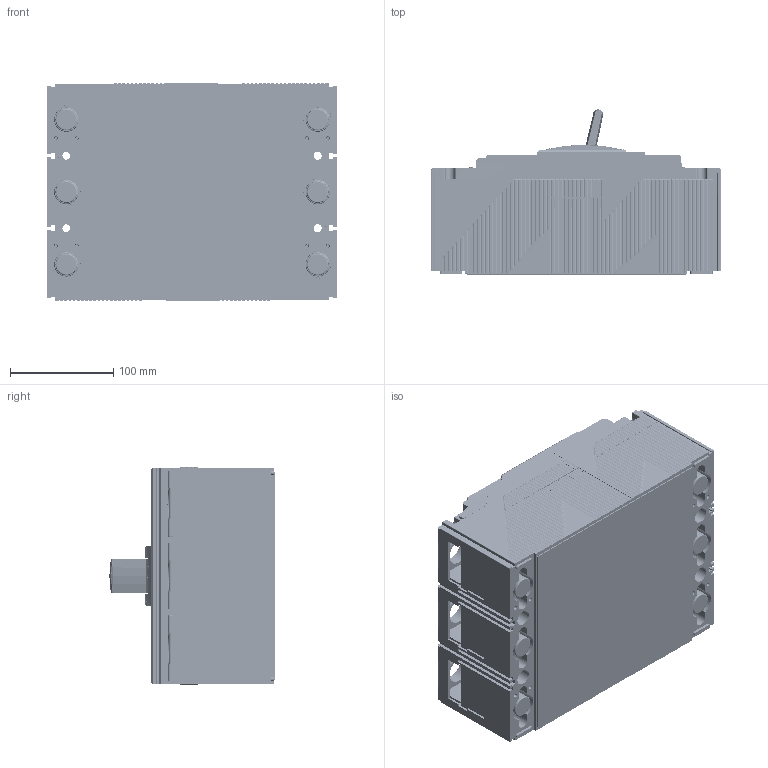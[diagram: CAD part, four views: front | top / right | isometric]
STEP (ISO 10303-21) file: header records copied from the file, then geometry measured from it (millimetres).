
FILE_DESCRIPTION (( 'STEP AP214' ), '1' );
FILE_NAME ('800-3P??-3D.STEP', '2024-01-16T16:34:32', ( '' ), ( '' ), 'SwSTEP 2.0', 'SolidWorks 2022', '' );
FILE_SCHEMA (( 'AUTOMOTIVE_DESIGN' ));
Length unit declared in the file: millimetre
Products named in the file (30): З°ІеЖ¬_1; 0.17-єуѕшФµёф°е-8MG.750.961.2-8MG.750.961.002-01_1; 0.56-ДЪБщЅЗИэЧйєПВЭ¶¤M12x35-8MG.900.964.1-8MG.900.964.001-01_1; 800A-3PГжёЗ; M12-0_ASM_24_ASM_4_ASM_4_ASM_14_ASM_1_1-2; 0.41-±ЯІеЖ¬-8MG.750.911-8MG.750.911.000-01_1; 0.40-800µЧ°е3p-8MG.050.961.1-8MG.050.961.001-01_1; M12-3_24_4_4_14_1_1; 0.56-ДЪБщЅЗИэЧйєПВЭ¶¤M12x35-8MG.900.964.1-8MG.900.964.001-01_1-5; M12-0_ASM_24_ASM_4_ASM_4_ASM_14_ASM_1_1-1; 0.30-НёГчёЗ-8MG.300.961.1-8MG.300.961.001-01_1; M12-0_ASM_24_ASM_4_ASM_4_ASM_14_ASM_1_1-5; 0.56-ДЪБщЅЗИэЧйєПВЭ¶¤M12x35-8MG.900.964.1-8MG.900.964.001-01_1-4; SGM6 400КЦ±ъ-1(1); 0.16-°ЧЦЅЖ¬ЈЁЗ°ѕшФµЦЅ°еЈ©-8MG.742.961.3-8MG.742.961.003-01_1; M12-1_24_4_4_14_1_1; 0.56-ДЪБщЅЗИэЧйєПВЭ¶¤M12x35-8MG.900.964.1-8MG.900.964.001-01_1-2; З°ІеЖ¬ЦЅЖ¬_1; M12-0_ASM_24_ASM_4_ASM_4_ASM_14_ASM_1_1; 0.18-З°ѕшФµёф°е-8MG.750.961.3-8MG.750.961.003-01_1; 0.56-ДЪБщЅЗИэЧйєПВЭ¶¤M12x35-8MG.900.964.1-8MG.900.964.001-01_1-3; 0.56-ДЪБщЅЗИэЧйєПВЭ¶¤M12x35-8MG.900.964.1-8MG.900.964.001-01_1-1; 0.9-»щЧщ3p-5MG.024.961.1-5MG.024.961.001-01_1; M12-2_24_4_4_14_1_1; 0.12-Н­µжїй-8MG.588.961.1-8MG.588.961.001-01_1; 800-3P整体-3D; M12-0_ASM_24_ASM_4_ASM_4_ASM_14_ASM_1_1-3; 0.34-ИИїЙµч°ґЕҐ-8MG.253.906-8MG.253.906.000-01_1; ZHONGGAI-3P_1; M12-0_ASM_24_ASM_4_ASM_4_ASM_14_ASM_1_1-4
Assembly tree (60 placements, depth 4):
  800-3P整体-3D
    0.56-ДЪБщЅЗИэЧйєПВЭ¶¤M12x35-8MG.900.964.1-8MG.900.964.001-01_1
      M12-0_ASM_24_ASM_4_ASM_4_ASM_14_ASM_1_1
        M12-1_24_4_4_14_1_1
        M12-2_24_4_4_14_1_1
        M12-3_24_4_4_14_1_1
    0.56-ДЪБщЅЗИэЧйєПВЭ¶¤M12x35-8MG.900.964.1-8MG.900.964.001-01_1-1
      M12-0_ASM_24_ASM_4_ASM_4_ASM_14_ASM_1_1-1
        M12-1_24_4_4_14_1_1
        M12-2_24_4_4_14_1_1
        M12-3_24_4_4_14_1_1
    0.56-ДЪБщЅЗИэЧйєПВЭ¶¤M12x35-8MG.900.964.1-8MG.900.964.001-01_1-2
      M12-0_ASM_24_ASM_4_ASM_4_ASM_14_ASM_1_1-2
        M12-1_24_4_4_14_1_1
        M12-2_24_4_4_14_1_1
        M12-3_24_4_4_14_1_1
    0.56-ДЪБщЅЗИэЧйєПВЭ¶¤M12x35-8MG.900.964.1-8MG.900.964.001-01_1-3
      M12-0_ASM_24_ASM_4_ASM_4_ASM_14_ASM_1_1-3
        M12-1_24_4_4_14_1_1
        M12-2_24_4_4_14_1_1
        M12-3_24_4_4_14_1_1
    0.56-ДЪБщЅЗИэЧйєПВЭ¶¤M12x35-8MG.900.964.1-8MG.900.964.001-01_1-4
      M12-0_ASM_24_ASM_4_ASM_4_ASM_14_ASM_1_1-4
        M12-1_24_4_4_14_1_1
        M12-2_24_4_4_14_1_1
        M12-3_24_4_4_14_1_1
    0.56-ДЪБщЅЗИэЧйєПВЭ¶¤M12x35-8MG.900.964.1-8MG.900.964.001-01_1-5
      M12-0_ASM_24_ASM_4_ASM_4_ASM_14_ASM_1_1-5
        M12-1_24_4_4_14_1_1
        M12-2_24_4_4_14_1_1
        M12-3_24_4_4_14_1_1
    0.9-»щЧщ3p-5MG.024.961.1-5MG.024.961.001-01_1
    0.12-Н­µжїй-8MG.588.961.1-8MG.588.961.001-01_1  x3
    0.17-єуѕшФµёф°е-8MG.750.961.2-8MG.750.961.002-01_1  x6
    0.18-З°ѕшФµёф°е-8MG.750.961.3-8MG.750.961.003-01_1  x3
    0.34-ИИїЙµч°ґЕҐ-8MG.253.906-8MG.253.906.000-01_1
    0.41-±ЯІеЖ¬-8MG.750.911-8MG.750.911.000-01_1  x2
    0.30-НёГчёЗ-8MG.300.961.1-8MG.300.961.001-01_1
    З°ІеЖ¬ЦЅЖ¬_1  x3
    З°ІеЖ¬_1  x3
    0.40-800µЧ°е3p-8MG.050.961.1-8MG.050.961.001-01_1
    0.16-°ЧЦЅЖ¬ЈЁЗ°ѕшФµЦЅ°еЈ©-8MG.742.961.3-8MG.742.961.003-01_1  x3
    ZHONGGAI-3P_1
    SGM6 400КЦ±ъ-1(1)
    800A-3PГжёЗ
Bounding box: 280 x 159.71 x 210 mm (x, y, z)
Volume: 3859613.1 mm3; surface area: 995561.4 mm2
Topology: 46 solids, 55 shells, 6743 faces, 19095 edges, 12628 vertices
Faces by surface type: plane 4171, cylinder 1804, bspline 621, sphere 75, cone 54, torus 18
Entity records: 260911 total; most frequent: CARTESIAN_POINT 122965, ORIENTED_EDGE 31682, DIRECTION 22984, EDGE_CURVE 15869, VERTEX_POINT 10532, LINE 9920, VECTOR 9920, AXIS2_PLACEMENT_3D 6532
